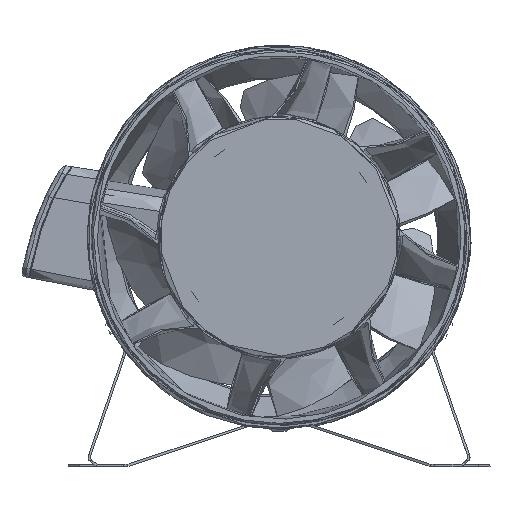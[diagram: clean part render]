
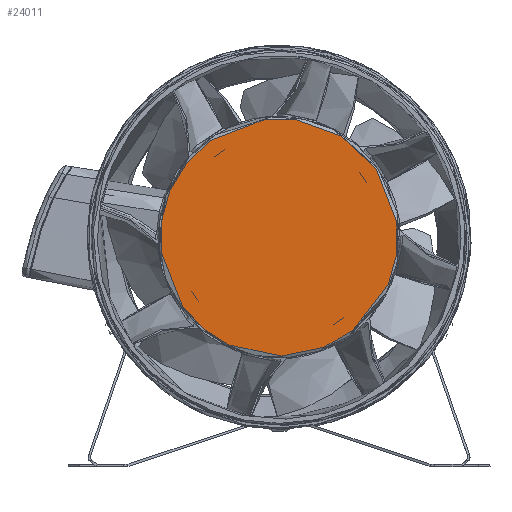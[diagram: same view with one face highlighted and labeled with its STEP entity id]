
A CAD part, left-side view. The second image highlights one B-rep face of the part: STEP entity #24011.
In plain terms, the highlighted free-form (B-spline) face has degree [1, 1] with [2, 2] control points.
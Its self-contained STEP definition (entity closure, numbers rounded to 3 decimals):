
#23472 = CARTESIAN_POINT ('', (949.94, 1686.071, -543.354));
#23473 = VERTEX_POINT ('', #23472);
#23480 = CARTESIAN_POINT ('', (949.94, 1686.071, -543.354));
#23481 = CARTESIAN_POINT ('', (949.94, 1684.063, -546.221));
#23482 = CARTESIAN_POINT ('', (949.94, 1686.93, -548.228));
#23483 = CARTESIAN_POINT ('', (949.94, 1689.797, -550.236));
#23484 = CARTESIAN_POINT ('', (949.94, 1691.805, -547.369));
#23485 = CARTESIAN_POINT ('', (949.94, 1693.812, -544.502));
#23486 = CARTESIAN_POINT ('', (949.94, 1690.945, -542.494));
#23487 = CARTESIAN_POINT ('', (949.94, 1688.078, -540.487));
#23488 = CARTESIAN_POINT ('', (949.94, 1686.071, -543.354));
#23489 = (
   BOUNDED_CURVE ()
   B_SPLINE_CURVE (2, (#23480, #23481, #23482, #23483, #23484, #23485, #23486, #23487, #23488), .UNSPECIFIED., .T., .U.)
   B_SPLINE_CURVE_WITH_KNOTS ((3, 2, 2, 2, 3), (0., 90., 180., 270., 360.), .UNSPECIFIED.)
   CURVE ()
   GEOMETRIC_REPRESENTATION_ITEM ()
   RATIONAL_B_SPLINE_CURVE ((1., 0.707, 1., 0.707, 1., 0.707, 1., 0.707, 1.))
   REPRESENTATION_ITEM ('')
);
#23490 = EDGE_CURVE ('', #23473, #23473, #23489, .T.);
#23596 = CARTESIAN_POINT ('', (949.94, 1668.803, -465.151));
#23597 = VERTEX_POINT ('', #23596);
#23619 = CARTESIAN_POINT ('', (949.94, 1668.803, -465.151));
#23620 = CARTESIAN_POINT ('', (949.94, 1704.652, -413.954));
#23621 = CARTESIAN_POINT ('', (949.94, 1755.849, -449.803));
#23622 = CARTESIAN_POINT ('', (949.94, 1807.046, -485.652));
#23623 = CARTESIAN_POINT ('', (949.94, 1771.197, -536.849));
#23624 = CARTESIAN_POINT ('', (949.94, 1735.348, -588.046));
#23625 = CARTESIAN_POINT ('', (949.94, 1684.151, -552.197));
#23626 = CARTESIAN_POINT ('', (949.94, 1632.954, -516.348));
#23627 = CARTESIAN_POINT ('', (949.94, 1668.803, -465.151));
#23628 = (
   BOUNDED_CURVE ()
   B_SPLINE_CURVE (2, (#23619, #23620, #23621, #23622, #23623, #23624, #23625, #23626, #23627), .UNSPECIFIED., .T., .U.)
   B_SPLINE_CURVE_WITH_KNOTS ((3, 2, 2, 2, 3), (0., 90., 180., 270., 360.), .UNSPECIFIED.)
   CURVE ()
   GEOMETRIC_REPRESENTATION_ITEM ()
   RATIONAL_B_SPLINE_CURVE ((1., 0.707, 1., 0.707, 1., 0.707, 1., 0.707, 1.))
   REPRESENTATION_ITEM ('')
);
#23629 = EDGE_CURVE ('', #23597, #23597, #23628, .T.);
#23952 = ORIENTED_EDGE ('', *, *, #23629, .T.);
#23953 = EDGE_LOOP ('', (#23952));
#23954 = FACE_OUTER_BOUND ('', #23953, .T.);
#23955 = ORIENTED_EDGE ('', *, *, #23490, .T.);
#23956 = EDGE_LOOP ('', (#23955));
#23957 = FACE_BOUND ('', #23956, .T.);
#23958 = CARTESIAN_POINT ('', (949.94, 1762.354, -534.929));
#23959 = VERTEX_POINT ('', #23958);
#23960 = CARTESIAN_POINT ('', (949.94, 1762.354, -534.929));
#23961 = CARTESIAN_POINT ('', (949.94, 1765.221, -536.937));
#23962 = CARTESIAN_POINT ('', (949.94, 1767.228, -534.07));
#23963 = CARTESIAN_POINT ('', (949.94, 1769.236, -531.203));
#23964 = CARTESIAN_POINT ('', (949.94, 1766.369, -529.195));
#23965 = CARTESIAN_POINT ('', (949.94, 1763.502, -527.188));
#23966 = CARTESIAN_POINT ('', (949.94, 1761.494, -530.055));
#23967 = CARTESIAN_POINT ('', (949.94, 1759.487, -532.922));
#23968 = CARTESIAN_POINT ('', (949.94, 1762.354, -534.929));
#23969 = (
   BOUNDED_CURVE ()
   B_SPLINE_CURVE (2, (#23960, #23961, #23962, #23963, #23964, #23965, #23966, #23967, #23968), .UNSPECIFIED., .T., .U.)
   B_SPLINE_CURVE_WITH_KNOTS ((3, 2, 2, 2, 3), (0., 90., 180., 270., 360.), .UNSPECIFIED.)
   CURVE ()
   GEOMETRIC_REPRESENTATION_ITEM ()
   RATIONAL_B_SPLINE_CURVE ((1., 0.707, 1., 0.707, 1., 0.707, 1., 0.707, 1.))
   REPRESENTATION_ITEM ('')
);
#23970 = EDGE_CURVE ('', #23959, #23959, #23969, .T.);
#23971 = ORIENTED_EDGE ('', *, *, #23970, .T.);
#23972 = EDGE_LOOP ('', (#23971));
#23973 = FACE_BOUND ('', #23972, .T.);
#23974 = CARTESIAN_POINT ('', (949.94, 1753.929, -458.646));
#23975 = VERTEX_POINT ('', #23974);
#23976 = CARTESIAN_POINT ('', (949.94, 1753.929, -458.646));
#23977 = CARTESIAN_POINT ('', (949.94, 1755.937, -455.779));
#23978 = CARTESIAN_POINT ('', (949.94, 1753.07, -453.772));
#23979 = CARTESIAN_POINT ('', (949.94, 1750.203, -451.764));
#23980 = CARTESIAN_POINT ('', (949.94, 1748.195, -454.631));
#23981 = CARTESIAN_POINT ('', (949.94, 1746.188, -457.498));
#23982 = CARTESIAN_POINT ('', (949.94, 1749.055, -459.506));
#23983 = CARTESIAN_POINT ('', (949.94, 1751.922, -461.513));
#23984 = CARTESIAN_POINT ('', (949.94, 1753.929, -458.646));
#23985 = (
   BOUNDED_CURVE ()
   B_SPLINE_CURVE (2, (#23976, #23977, #23978, #23979, #23980, #23981, #23982, #23983, #23984), .UNSPECIFIED., .T., .U.)
   B_SPLINE_CURVE_WITH_KNOTS ((3, 2, 2, 2, 3), (0., 90., 180., 270., 360.), .UNSPECIFIED.)
   CURVE ()
   GEOMETRIC_REPRESENTATION_ITEM ()
   RATIONAL_B_SPLINE_CURVE ((1., 0.707, 1., 0.707, 1., 0.707, 1., 0.707, 1.))
   REPRESENTATION_ITEM ('')
);
#23986 = EDGE_CURVE ('', #23975, #23975, #23985, .T.);
#23987 = ORIENTED_EDGE ('', *, *, #23986, .T.);
#23988 = EDGE_LOOP ('', (#23987));
#23989 = FACE_BOUND ('', #23988, .T.);
#23990 = CARTESIAN_POINT ('', (949.94, 1677.646, -467.071));
#23991 = VERTEX_POINT ('', #23990);
#23992 = CARTESIAN_POINT ('', (949.94, 1677.646, -467.071));
#23993 = CARTESIAN_POINT ('', (949.94, 1674.779, -465.063));
#23994 = CARTESIAN_POINT ('', (949.94, 1672.772, -467.93));
#23995 = CARTESIAN_POINT ('', (949.94, 1670.764, -470.797));
#23996 = CARTESIAN_POINT ('', (949.94, 1673.631, -472.805));
#23997 = CARTESIAN_POINT ('', (949.94, 1676.498, -474.812));
#23998 = CARTESIAN_POINT ('', (949.94, 1678.506, -471.945));
#23999 = CARTESIAN_POINT ('', (949.94, 1680.513, -469.078));
#24000 = CARTESIAN_POINT ('', (949.94, 1677.646, -467.071));
#24001 = (
   BOUNDED_CURVE ()
   B_SPLINE_CURVE (2, (#23992, #23993, #23994, #23995, #23996, #23997, #23998, #23999, #24000), .UNSPECIFIED., .T., .U.)
   B_SPLINE_CURVE_WITH_KNOTS ((3, 2, 2, 2, 3), (0., 90., 180., 270., 360.), .UNSPECIFIED.)
   CURVE ()
   GEOMETRIC_REPRESENTATION_ITEM ()
   RATIONAL_B_SPLINE_CURVE ((1., 0.707, 1., 0.707, 1., 0.707, 1., 0.707, 1.))
   REPRESENTATION_ITEM ('')
);
#24002 = EDGE_CURVE ('', #23991, #23991, #24001, .T.);
#24003 = ORIENTED_EDGE ('', *, *, #24002, .T.);
#24004 = EDGE_LOOP ('', (#24003));
#24005 = FACE_BOUND ('', #24004, .T.);
#24006 = CARTESIAN_POINT ('', (949.94, 1749.772, -669.844));
#24007 = CARTESIAN_POINT ('', (949.94, 1888.844, -471.228));
#24008 = CARTESIAN_POINT ('', (949.94, 1551.156, -530.772));
#24009 = CARTESIAN_POINT ('', (949.94, 1690.228, -332.156));
#24010 = B_SPLINE_SURFACE_WITH_KNOTS ('', 1, 1, ((#24006, #24007), (#24008, #24009)), .UNSPECIFIED., .F., .F., .U., (2, 2), (2, 2), (-121.232, 121.232), (-121.232, 121.232), .UNSPECIFIED.);
#24011 = ADVANCED_FACE ('', (#23954, #23957, #23973, #23989, #24005), #24010, .T.);
